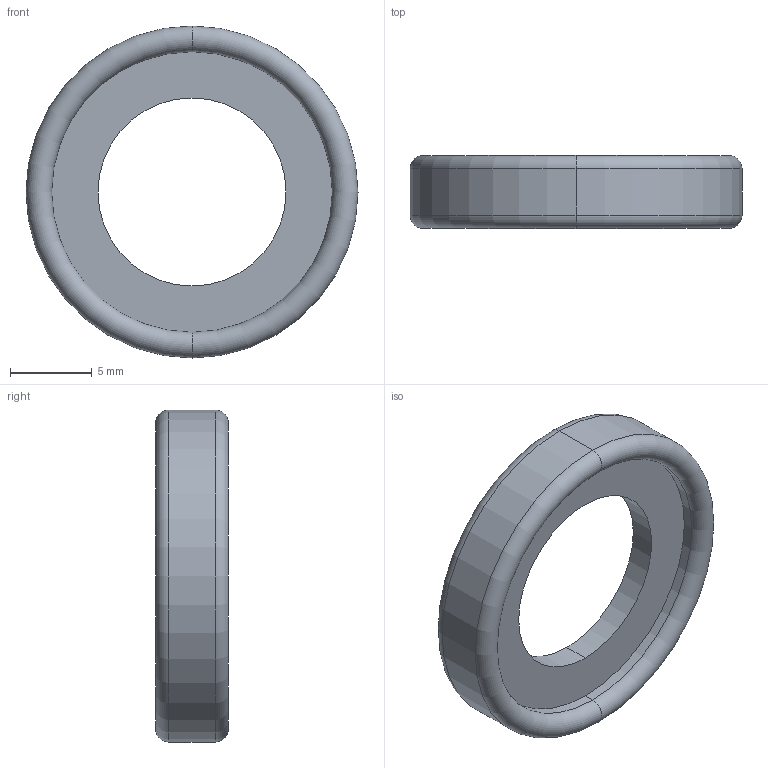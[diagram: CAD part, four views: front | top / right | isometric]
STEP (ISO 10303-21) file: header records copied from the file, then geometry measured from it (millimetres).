
FILE_DESCRIPTION (( 'STEP AP214' ), '1' );
FILE_NAME ('EG40 .5 GASKET.STEP', '2025-06-27T14:08:36', ( '' ), ( '' ), 'SwSTEP 2.0', 'SolidWorks 2021', '' );
FILE_SCHEMA (( 'AUTOMOTIVE_DESIGN' ));
Length unit declared in the file: inch
Products named in the file (1): EG40 .5 GASKET
Bounding box: 20.32 x 4.45 x 20.32 mm (x, y, z)
Volume: 583.4 mm3; surface area: 856.3 mm2
Topology: 1 solids, 1 shells, 14 faces, 28 edges, 16 vertices
Faces by surface type: cylinder 8, torus 4, plane 2
Entity records: 412 total; most frequent: DIRECTION 78, CARTESIAN_POINT 59, ORIENTED_EDGE 56, AXIS2_PLACEMENT_3D 35, EDGE_CURVE 28, CIRCLE 20, EDGE_LOOP 16, VERTEX_POINT 16
